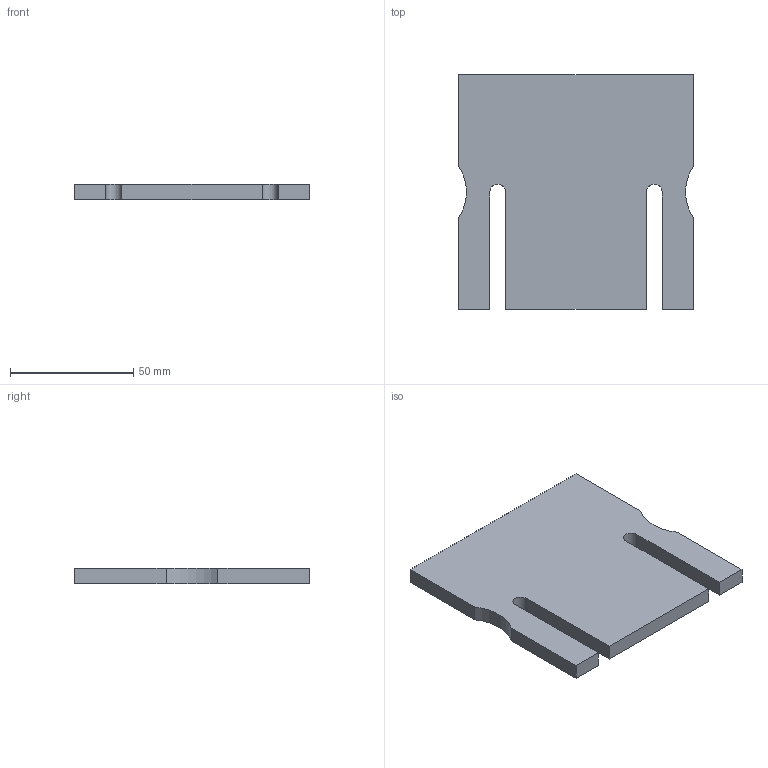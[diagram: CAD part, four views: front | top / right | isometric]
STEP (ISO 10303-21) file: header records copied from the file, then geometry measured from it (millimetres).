
FILE_DESCRIPTION((''),'2;1');
FILE_NAME('M:\jdazai\jdazai_home\private\Inventor Diagrams\maze parts\Waterjet Maze\micemaze_1-piece_holes_x.stp','2014-09-25T09:08:01',('jdazai'),(''),'Autodesk Inventor 2013','Autodesk Inventor 2013','');
FILE_SCHEMA(('AUTOMOTIVE_DESIGN { 1 0 10303 214 1 1 1 1 }'));
Length unit declared in the file: millimetre
Products named in the file (1): Part9
Bounding box: 95.25 x 95.25 x 6.35 mm (x, y, z)
Volume: 52992.6 mm3; surface area: 20381.6 mm2
Topology: 1 solids, 1 shells, 18 faces, 48 edges, 32 vertices
Faces by surface type: plane 14, cylinder 4
Entity records: 586 total; most frequent: CARTESIAN_POINT 99, ORIENTED_EDGE 96, DIRECTION 94, EDGE_CURVE 48, VECTOR 40, LINE 40, VERTEX_POINT 32, AXIS2_PLACEMENT_3D 27
